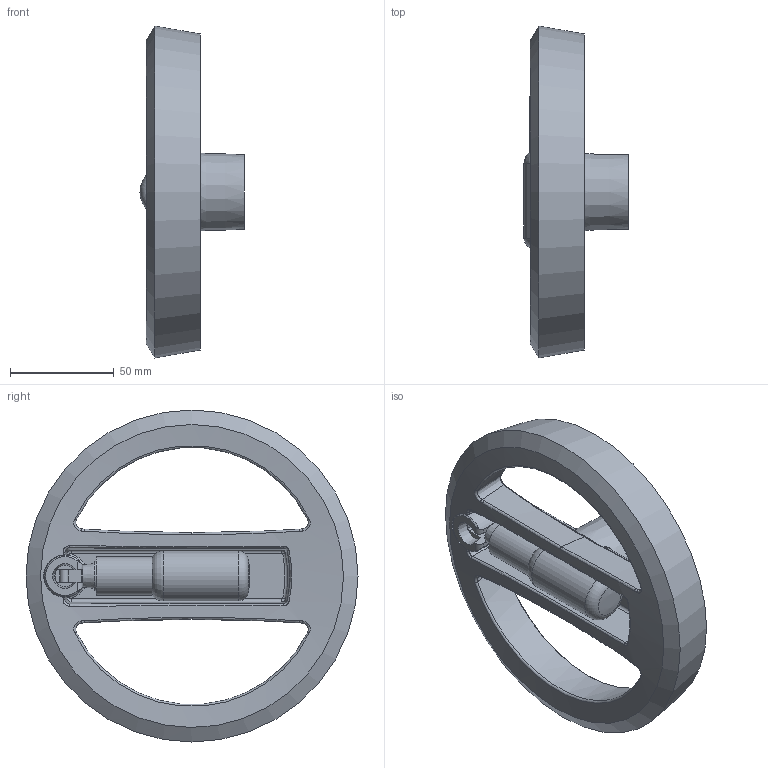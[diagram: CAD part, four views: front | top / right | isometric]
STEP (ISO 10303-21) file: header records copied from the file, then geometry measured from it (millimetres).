
FILE_DESCRIPTION (( 'STEP AP214' ), '1' );
FILE_NAME ('924.3-160-B14-R-SW.step', '2022-04-06T12:18:17', ( '' ), ( '' ), 'SwSTEP 2.0', 'SolidWorks 2019', '' );
FILE_SCHEMA (( 'AUTOMOTIVE_DESIGN' ));
Length unit declared in the file: millimetre
Products named in the file (3): 924.3-160-B14-R-SW;  WB924.3^WB924.3_160-B14-SW; WB798.3_Griff^WB924.3_KT-24-M10
Assembly tree (2 placements, depth 2):
  924.3-160-B14-R-SW
     WB924.3^WB924.3_160-B14-SW
    WB798.3_Griff^WB924.3_KT-24-M10
Bounding box: 50.2 x 160 x 160 mm (x, y, z)
Volume: 267041.9 mm3; surface area: 63525.5 mm2
Topology: 2 solids, 3 shells, 203 faces, 475 edges, 284 vertices
Faces by surface type: bspline 86, plane 43, cylinder 33, torus 19, cone 17, sphere 5
Full cylindrical faces by diameter (mm): 4 x1, 6 x1, 6.3 x1, 11 x1, 14 x2, 18.5 x1, 24 x3, 24.4 x1
Entity records: 9615 total; most frequent: CARTESIAN_POINT 5207, ORIENTED_EDGE 890, DIRECTION 689, EDGE_CURVE 445, AXIS2_PLACEMENT_3D 301, VERTEX_POINT 277, EDGE_LOOP 240, FACE_OUTER_BOUND 218
